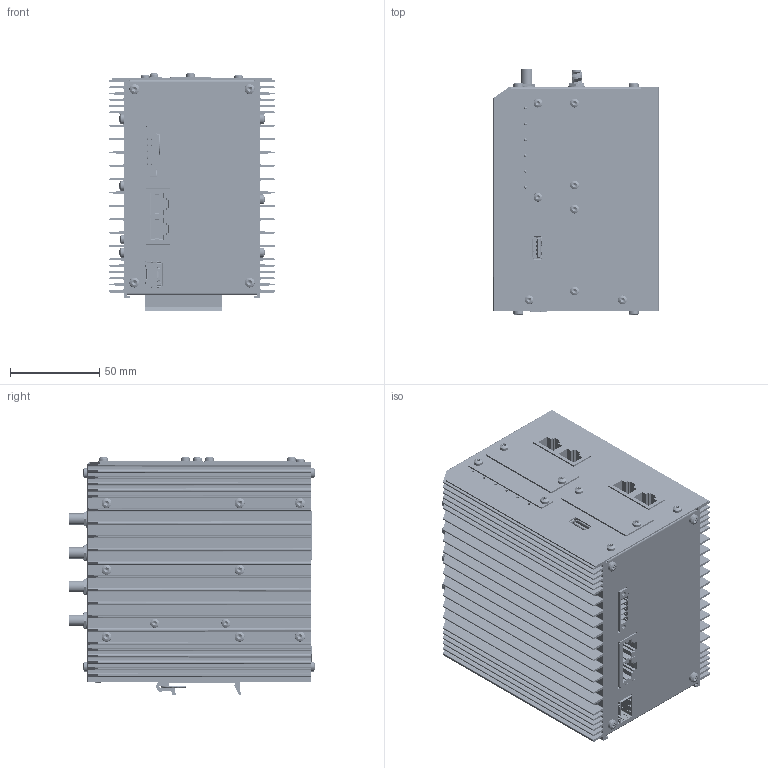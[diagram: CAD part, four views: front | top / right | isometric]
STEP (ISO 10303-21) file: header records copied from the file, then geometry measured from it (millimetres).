
FILE_DESCRIPTION(/* description */ ('Alibre Inc.'),/* implementation_level */ '2;1');
FILE_NAME(/* name */ 'export-DE047DE6-5DF1-4DED-A1DD-69B45E350496',/* time_stamp */ '2019-02-07T14:53:19+01:00',/* author */ (''),/* organization */ (''),/* preprocessor_version */ 'ST-DEVELOPER v17',/* originating_system */ 'Alibre',/* authorisation */ '');
FILE_SCHEMA (('AUTOMOTIVE_DESIGN'));
Length unit declared in the file: millimetre
Products named in the file (382): DUMMY_STECKER_SMA; DUMMY_MUTTER_SMA; DUMMY_SMA_STECKER_CPL_ASM; DUMMY_DIST_HALT_M3X8MM_BN3319; 1652304_HEAT_SINK_TOP; 1652300_COVER_L_MAX_MOD; DUMMY_BLENDE; 1652306_SIM_BLENDE; DUMMY_DIN_HALTER; DUMMY_DIN_FEDER; DUMMY_DIN_HALTER_CPL_ASM; DUMMY_SENK_M3X6_BN3803_3061682; DUMMY_PAN_M2_5X6_BN5687_3061597; DUMMY_PAN_M3X6_BN5687_3061605; DUMMY_STECKPRINT; 1652312_RADIATOR_BLOCK_CPU; DUMMY_HEATPAD_0_5_MM_1652312; DUMMY_HEATPAD_2MM_CPU; DUMMY_DISTANZBOLZEN_M3X10_MF; 1652313_SFP_HOLDER; DUMMY_HEATPAD_0_5_MM_SFP; DUMMY_DIST_HALT_M3X20MM_BN3319; DUMMY_WARMEFOLIE_1652307; 1652307_RADIATOR_BLOCK_DCDC; DUMMY_PAN_M3X16_BN5687; #14583; #14584; #14585; #14586; #14587; 1652302_CUBE_COVER_L_MAX_MOD; 1652305_HEAT_SINK_BOTTOM; 1652100_NB1800_MAX_CPL_ASM
Bounding box: 92.7 x 138.2 x 133.7 mm (x, y, z)
Volume: 368190.1 mm3; surface area: 421452.4 mm2
Topology: 584 solids, 587 shells, 25302 faces, 68834 edges, 45277 vertices
Faces by surface type: plane 15754, cylinder 7252, bspline 857, cone 776, torus 507, sphere 140, extrusion 9, revolution 7
Full cylindrical faces by diameter (mm): 0.25 x1, 0.3 x108, 0.5 x80, 0.6 x48, 0.62 x8, 0.7 x4, 0.76 x4, 0.8 x1, 0.889 x2, 0.89 x44, 0.9 x37, 0.92 x4, 1 x38, 1.02 x8, 1.1 x6, 1.2 x13, 1.262 x1, 1.5 x2, 1.55 x2, 1.57 x3, 1.6 x13, 1.8 x4, 2 x7, 2.1 x2, 2.3 x2, 2.4 x2, 2.5 x2, 2.6 x4, 3 x4, 3.2 x18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
Entity records: 572071 total; most frequent: CARTESIAN_POINT 175020, ORIENTED_EDGE 82531, DIRECTION 71027, EDGE_CURVE 41421, VECTOR 28955, LINE 28946, VERTEX_POINT 27556, AXIS2_PLACEMENT_3D 25751
